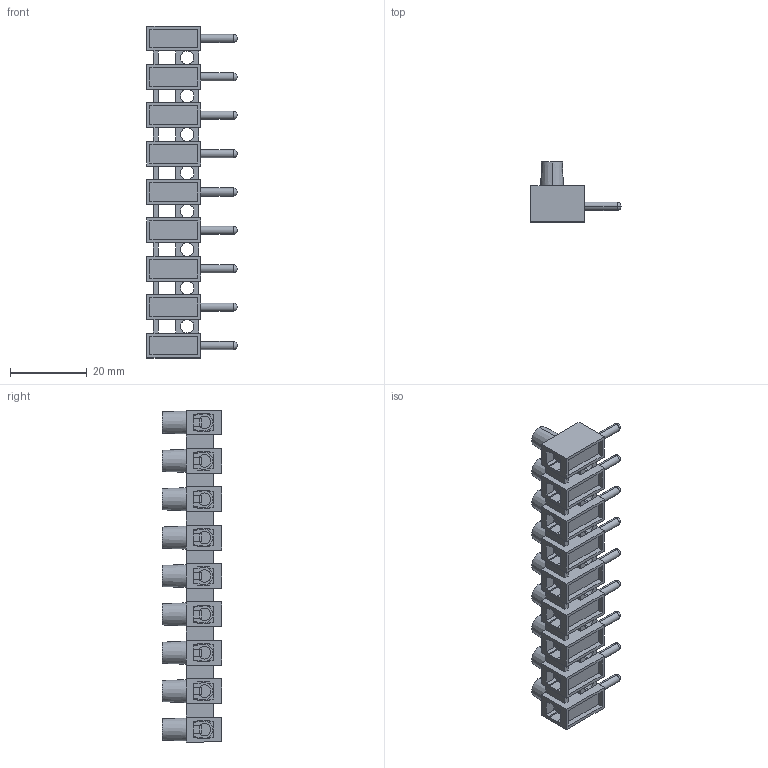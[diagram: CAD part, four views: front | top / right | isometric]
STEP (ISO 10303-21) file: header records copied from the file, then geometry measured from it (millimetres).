
FILE_DESCRIPTION (( 'STEP AP214' ), '1' );
FILE_NAME ('322-SV-DS-09.STEP', '2008-04-15T02:47:55', ( ' ' ), ( '' ), 'SwSTEP 2.0', 'SolidWorks 2007', '' );
FILE_SCHEMA (( 'AUTOMOTIVE_DESIGN' ));
Length unit declared in the file: millimetre
Products named in the file (1): 322-SV-DS-09
Bounding box: 23.5 x 15.5 x 86.5 mm (x, y, z)
Volume: 8067.5 mm3; surface area: 9748.6 mm2
Topology: 1 solids, 1 shells, 973 faces, 2804 edges, 1844 vertices
Faces by surface type: plane 570, cylinder 259, cone 81, bspline 45, sphere 18
Entity records: 34536 total; most frequent: CARTESIAN_POINT 8806, ORIENTED_EDGE 5536, DIRECTION 5198, EDGE_CURVE 2768, VECTOR 1826, LINE 1826, VERTEX_POINT 1826, AXIS2_PLACEMENT_3D 1686
